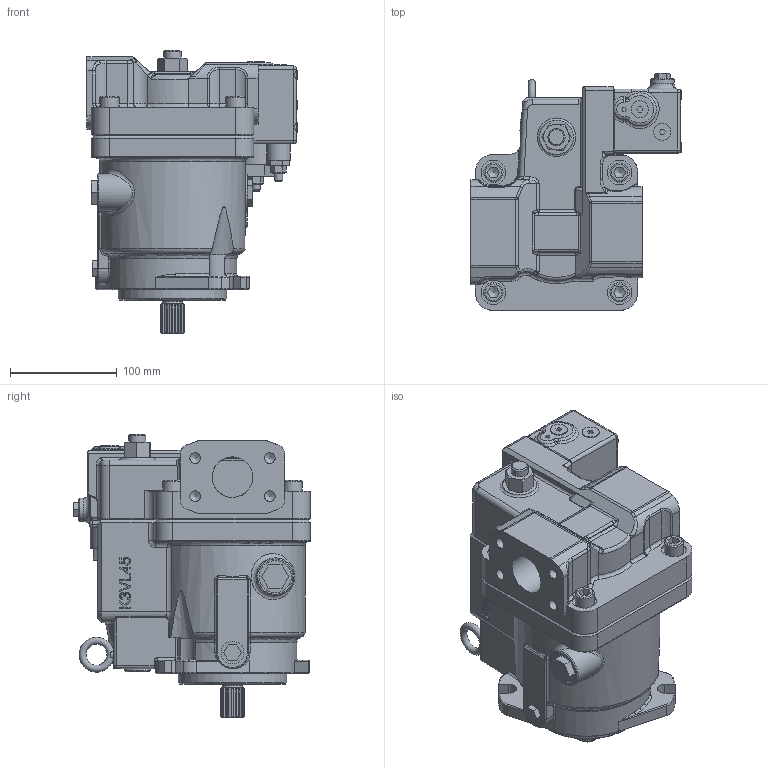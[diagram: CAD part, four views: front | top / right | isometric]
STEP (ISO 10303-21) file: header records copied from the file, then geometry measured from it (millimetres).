
FILE_DESCRIPTION((''),'2;1');
FILE_NAME('I:\3D Step files\Approved for WEB\K3V\K3VL45B 10RTM P0.stp','2013-03-05T09:15:38',('MNORMAN'),(''),'Autodesk Inventor 2013','Autodesk Inventor 2013','');
FILE_SCHEMA(('AUTOMOTIVE_DESIGN { 1 0 10303 214 1 1 1 1 }'));
Length unit declared in the file: millimetre
Products named in the file (1): Part8
Bounding box: 196.5 x 221.7 x 265.2 mm (x, y, z)
Volume: 4842790.1 mm3; surface area: 296303.3 mm2
Topology: 15 solids, 15 shells, 1114 faces, 2701 edges, 1646 vertices
Faces by surface type: plane 467, cylinder 295, bspline 149, cone 112, torus 69, sphere 22
Full cylindrical faces by diameter (mm): 4.917 x4, 6 x4, 6.5 x4, 8 x5, 8.376 x5, 10 x4, 10.106 x8, 11 x4, 12 x4, 13.835 x1, 15.5 x4, 16 x3, 18 x4, 18.2 x1, 21 x1, 22 x2, 23 x4, 24 x1, 25 x1, 30 x4, 32 x1, 36 x1, 38 x1, 90 x1, 101.6 x1, 105 x1
Entity records: 37109 total; most frequent: CARTESIAN_POINT 11743, ORIENTED_EDGE 5006, DIRECTION 4809, EDGE_CURVE 2503, AXIS2_PLACEMENT_3D 1830, VERTEX_POINT 1602, EDGE_LOOP 1311, VECTOR 1149
